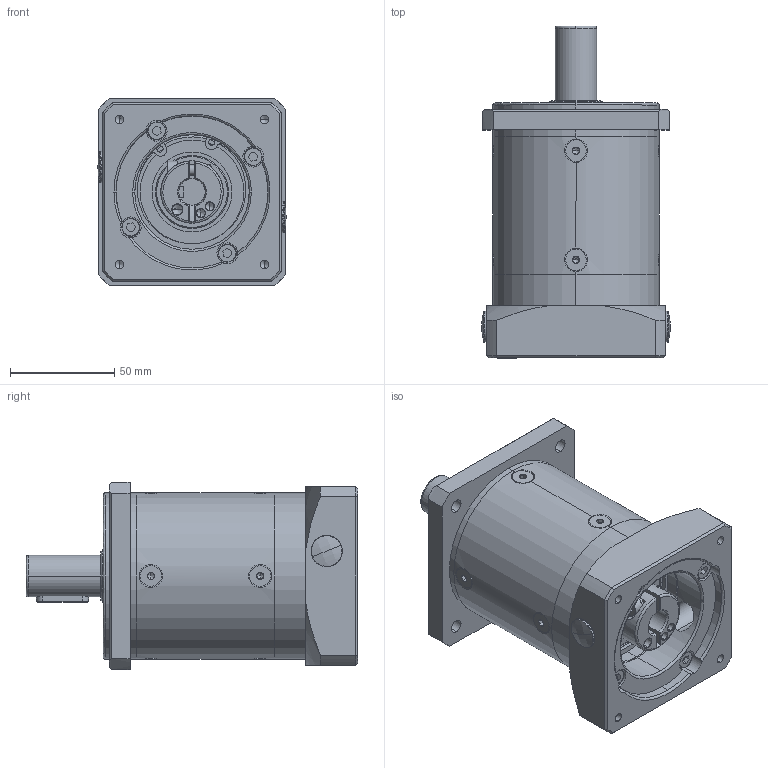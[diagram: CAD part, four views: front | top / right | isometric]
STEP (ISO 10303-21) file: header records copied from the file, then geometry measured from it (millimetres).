
FILE_DESCRIPTION (( 'STEP AP214' ), '1' );
FILE_NAME ('GSFL-080-0_ _-N034_-XX Two Stage.STEP', '2025-08-25T20:02:23', ( '' ), ( '' ), 'SwSTEP 2.0', 'SolidWorks 2020', '' );
FILE_SCHEMA (( 'AUTOMOTIVE_DESIGN' ));
Length unit declared in the file: millimetre
Products named in the file (1): GSFL-080-0_ _-N034_-XX Two Stage
Bounding box: 90.39 x 159.5 x 90 mm (x, y, z)
Volume: 403629.8 mm3; surface area: 175467.8 mm2
Topology: 52 solids, 52 shells, 1395 faces, 3576 edges, 2217 vertices
Faces by surface type: cylinder 461, plane 371, bspline 368, cone 195
Entity records: 60827 total; most frequent: CARTESIAN_POINT 25896, ORIENTED_EDGE 6824, DIRECTION 6185, EDGE_CURVE 3412, AXIS2_PLACEMENT_3D 2622, VERTEX_POINT 2217, EDGE_LOOP 1605, CIRCLE 1594
